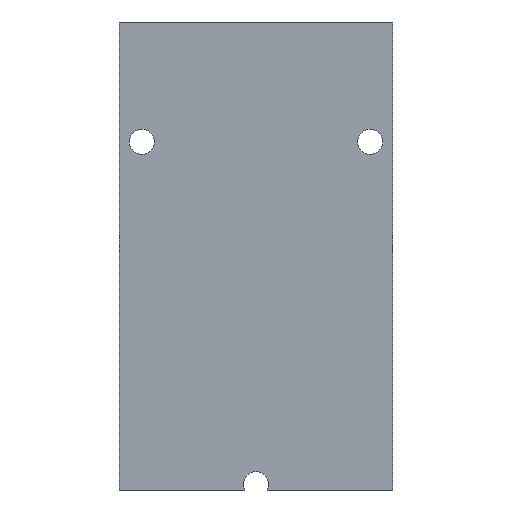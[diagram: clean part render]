
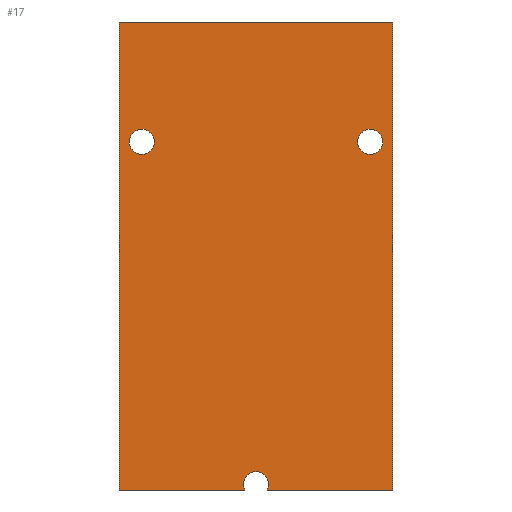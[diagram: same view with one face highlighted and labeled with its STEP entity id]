
A CAD part, left-side view. The second image highlights one B-rep face of the part: STEP entity #17.
In plain terms, the highlighted planar face has unit normal (-1, 0, 0).
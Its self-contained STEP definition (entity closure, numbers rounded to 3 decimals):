
#17 = ADVANCED_FACE('',(#18,#198,#233),#32,.F.);
#18 = FACE_BOUND('',#19,.F.);
#19 = EDGE_LOOP('',(#20,#55,#83,#111,#144,#172));
#20 = ORIENTED_EDGE('',*,*,#21,.F.);
#21 = EDGE_CURVE('',#22,#24,#26,.T.);
#22 = VERTEX_POINT('',#23);
#23 = CARTESIAN_POINT('',(43.175,18.,63.5));
#24 = VERTEX_POINT('',#25);
#25 = CARTESIAN_POINT('',(43.175,42.,63.5));
#26 = SURFACE_CURVE('',#27,(#31,#43),.PCURVE_S1.);
#27 = LINE('',#28,#29);
#28 = CARTESIAN_POINT('',(43.175,18.,63.5));
#29 = VECTOR('',#30,1.);
#30 = DIRECTION('',(0.,1.,0.));
#31 = PCURVE('',#32,#37);
#32 = PLANE('',#33);
#33 = AXIS2_PLACEMENT_3D('',#34,#35,#36);
#34 = CARTESIAN_POINT('',(43.175,18.,22.5));
#35 = DIRECTION('',(1.,0.,0.));
#36 = DIRECTION('',(0.,0.,1.));
#37 = DEFINITIONAL_REPRESENTATION('',(#38),#42);
#38 = LINE('',#39,#40);
#39 = CARTESIAN_POINT('',(41.,0.));
#40 = VECTOR('',#41,1.);
#41 = DIRECTION('',(0.,-1.));
#42 = ( GEOMETRIC_REPRESENTATION_CONTEXT(2) 
PARAMETRIC_REPRESENTATION_CONTEXT() REPRESENTATION_CONTEXT('2D SPACE',''
  ) );
#43 = PCURVE('',#44,#49);
#44 = PLANE('',#45);
#45 = AXIS2_PLACEMENT_3D('',#46,#47,#48);
#46 = CARTESIAN_POINT('',(43.175,18.,63.5));
#47 = DIRECTION('',(0.,0.,1.));
#48 = DIRECTION('',(1.,0.,0.));
#49 = DEFINITIONAL_REPRESENTATION('',(#50),#54);
#50 = LINE('',#51,#52);
#51 = CARTESIAN_POINT('',(0.,0.));
#52 = VECTOR('',#53,1.);
#53 = DIRECTION('',(0.,1.));
#54 = ( GEOMETRIC_REPRESENTATION_CONTEXT(2) 
PARAMETRIC_REPRESENTATION_CONTEXT() REPRESENTATION_CONTEXT('2D SPACE',''
  ) );
#55 = ORIENTED_EDGE('',*,*,#56,.F.);
#56 = EDGE_CURVE('',#57,#22,#59,.T.);
#57 = VERTEX_POINT('',#58);
#58 = CARTESIAN_POINT('',(43.175,18.,22.5));
#59 = SURFACE_CURVE('',#60,(#64,#71),.PCURVE_S1.);
#60 = LINE('',#61,#62);
#61 = CARTESIAN_POINT('',(43.175,18.,22.5));
#62 = VECTOR('',#63,1.);
#63 = DIRECTION('',(0.,0.,1.));
#64 = PCURVE('',#32,#65);
#65 = DEFINITIONAL_REPRESENTATION('',(#66),#70);
#66 = LINE('',#67,#68);
#67 = CARTESIAN_POINT('',(0.,0.));
#68 = VECTOR('',#69,1.);
#69 = DIRECTION('',(1.,0.));
#70 = ( GEOMETRIC_REPRESENTATION_CONTEXT(2) 
PARAMETRIC_REPRESENTATION_CONTEXT() REPRESENTATION_CONTEXT('2D SPACE',''
  ) );
#71 = PCURVE('',#72,#77);
#72 = PLANE('',#73);
#73 = AXIS2_PLACEMENT_3D('',#74,#75,#76);
#74 = CARTESIAN_POINT('',(43.175,18.,22.5));
#75 = DIRECTION('',(0.,1.,0.));
#76 = DIRECTION('',(0.,0.,1.));
#77 = DEFINITIONAL_REPRESENTATION('',(#78),#82);
#78 = LINE('',#79,#80);
#79 = CARTESIAN_POINT('',(0.,0.));
#80 = VECTOR('',#81,1.);
#81 = DIRECTION('',(1.,0.));
#82 = ( GEOMETRIC_REPRESENTATION_CONTEXT(2) 
PARAMETRIC_REPRESENTATION_CONTEXT() REPRESENTATION_CONTEXT('2D SPACE',''
  ) );
#83 = ORIENTED_EDGE('',*,*,#84,.T.);
#84 = EDGE_CURVE('',#57,#85,#87,.T.);
#85 = VERTEX_POINT('',#86);
#86 = CARTESIAN_POINT('',(43.175,29.02,22.5));
#87 = SURFACE_CURVE('',#88,(#92,#99),.PCURVE_S1.);
#88 = LINE('',#89,#90);
#89 = CARTESIAN_POINT('',(43.175,18.,22.5));
#90 = VECTOR('',#91,1.);
#91 = DIRECTION('',(0.,1.,0.));
#92 = PCURVE('',#32,#93);
#93 = DEFINITIONAL_REPRESENTATION('',(#94),#98);
#94 = LINE('',#95,#96);
#95 = CARTESIAN_POINT('',(0.,0.));
#96 = VECTOR('',#97,1.);
#97 = DIRECTION('',(0.,-1.));
#98 = ( GEOMETRIC_REPRESENTATION_CONTEXT(2) 
PARAMETRIC_REPRESENTATION_CONTEXT() REPRESENTATION_CONTEXT('2D SPACE',''
  ) );
#99 = PCURVE('',#100,#105);
#100 = PLANE('',#101);
#101 = AXIS2_PLACEMENT_3D('',#102,#103,#104);
#102 = CARTESIAN_POINT('',(43.175,18.,22.5));
#103 = DIRECTION('',(0.,0.,1.));
#104 = DIRECTION('',(1.,0.,0.));
#105 = DEFINITIONAL_REPRESENTATION('',(#106),#110);
#106 = LINE('',#107,#108);
#107 = CARTESIAN_POINT('',(0.,0.));
#108 = VECTOR('',#109,1.);
#109 = DIRECTION('',(0.,1.));
#110 = ( GEOMETRIC_REPRESENTATION_CONTEXT(2) 
PARAMETRIC_REPRESENTATION_CONTEXT() REPRESENTATION_CONTEXT('2D SPACE',''
  ) );
#111 = ORIENTED_EDGE('',*,*,#112,.T.);
#112 = EDGE_CURVE('',#85,#113,#115,.T.);
#113 = VERTEX_POINT('',#114);
#114 = CARTESIAN_POINT('',(43.175,30.98,22.5));
#115 = SURFACE_CURVE('',#116,(#121,#132),.PCURVE_S1.);
#116 = CIRCLE('',#117,1.1);
#117 = AXIS2_PLACEMENT_3D('',#118,#119,#120);
#118 = CARTESIAN_POINT('',(43.175,30.,23.));
#119 = DIRECTION('',(-1.,-0.,0.));
#120 = DIRECTION('',(0.,0.,-1.));
#121 = PCURVE('',#32,#122);
#122 = DEFINITIONAL_REPRESENTATION('',(#123),#131);
#123 = ( BOUNDED_CURVE() B_SPLINE_CURVE(2,(#124,#125,#126,#127,#128,#129
,#130),.UNSPECIFIED.,.T.,.F.) B_SPLINE_CURVE_WITH_KNOTS((1,2,2,2,2,1),(
    -2.094,0.,2.094,4.189,6.283,
8.378),.UNSPECIFIED.) CURVE() GEOMETRIC_REPRESENTATION_ITEM() 
RATIONAL_B_SPLINE_CURVE((1.,0.5,1.,0.5,1.,0.5,1.)) REPRESENTATION_ITEM(
  '') );
#124 = CARTESIAN_POINT('',(-0.6,-12.));
#125 = CARTESIAN_POINT('',(-0.6,-10.095));
#126 = CARTESIAN_POINT('',(1.05,-11.047));
#127 = CARTESIAN_POINT('',(2.7,-12.));
#128 = CARTESIAN_POINT('',(1.05,-12.953));
#129 = CARTESIAN_POINT('',(-0.6,-13.905));
#130 = CARTESIAN_POINT('',(-0.6,-12.));
#131 = ( GEOMETRIC_REPRESENTATION_CONTEXT(2) 
PARAMETRIC_REPRESENTATION_CONTEXT() REPRESENTATION_CONTEXT('2D SPACE',''
  ) );
#132 = PCURVE('',#133,#138);
#133 = CYLINDRICAL_SURFACE('',#134,1.1);
#134 = AXIS2_PLACEMENT_3D('',#135,#136,#137);
#135 = CARTESIAN_POINT('',(42.5,30.,23.));
#136 = DIRECTION('',(-1.,-0.,0.));
#137 = DIRECTION('',(0.,0.,-1.));
#138 = DEFINITIONAL_REPRESENTATION('',(#139),#143);
#139 = LINE('',#140,#141);
#140 = CARTESIAN_POINT('',(-6.283,-0.675));
#141 = VECTOR('',#142,1.);
#142 = DIRECTION('',(1.,-0.));
#143 = ( GEOMETRIC_REPRESENTATION_CONTEXT(2) 
PARAMETRIC_REPRESENTATION_CONTEXT() REPRESENTATION_CONTEXT('2D SPACE',''
  ) );
#144 = ORIENTED_EDGE('',*,*,#145,.T.);
#145 = EDGE_CURVE('',#113,#146,#148,.T.);
#146 = VERTEX_POINT('',#147);
#147 = CARTESIAN_POINT('',(43.175,42.,22.5));
#148 = SURFACE_CURVE('',#149,(#153,#160),.PCURVE_S1.);
#149 = LINE('',#150,#151);
#150 = CARTESIAN_POINT('',(43.175,18.,22.5));
#151 = VECTOR('',#152,1.);
#152 = DIRECTION('',(0.,1.,0.));
#153 = PCURVE('',#32,#154);
#154 = DEFINITIONAL_REPRESENTATION('',(#155),#159);
#155 = LINE('',#156,#157);
#156 = CARTESIAN_POINT('',(0.,0.));
#157 = VECTOR('',#158,1.);
#158 = DIRECTION('',(0.,-1.));
#159 = ( GEOMETRIC_REPRESENTATION_CONTEXT(2) 
PARAMETRIC_REPRESENTATION_CONTEXT() REPRESENTATION_CONTEXT('2D SPACE',''
  ) );
#160 = PCURVE('',#161,#166);
#161 = PLANE('',#162);
#162 = AXIS2_PLACEMENT_3D('',#163,#164,#165);
#163 = CARTESIAN_POINT('',(43.175,18.,22.5));
#164 = DIRECTION('',(0.,0.,1.));
#165 = DIRECTION('',(1.,0.,0.));
#166 = DEFINITIONAL_REPRESENTATION('',(#167),#171);
#167 = LINE('',#168,#169);
#168 = CARTESIAN_POINT('',(0.,0.));
#169 = VECTOR('',#170,1.);
#170 = DIRECTION('',(0.,1.));
#171 = ( GEOMETRIC_REPRESENTATION_CONTEXT(2) 
PARAMETRIC_REPRESENTATION_CONTEXT() REPRESENTATION_CONTEXT('2D SPACE',''
  ) );
#172 = ORIENTED_EDGE('',*,*,#173,.T.);
#173 = EDGE_CURVE('',#146,#24,#174,.T.);
#174 = SURFACE_CURVE('',#175,(#179,#186),.PCURVE_S1.);
#175 = LINE('',#176,#177);
#176 = CARTESIAN_POINT('',(43.175,42.,22.5));
#177 = VECTOR('',#178,1.);
#178 = DIRECTION('',(0.,0.,1.));
#179 = PCURVE('',#32,#180);
#180 = DEFINITIONAL_REPRESENTATION('',(#181),#185);
#181 = LINE('',#182,#183);
#182 = CARTESIAN_POINT('',(0.,-24.));
#183 = VECTOR('',#184,1.);
#184 = DIRECTION('',(1.,0.));
#185 = ( GEOMETRIC_REPRESENTATION_CONTEXT(2) 
PARAMETRIC_REPRESENTATION_CONTEXT() REPRESENTATION_CONTEXT('2D SPACE',''
  ) );
#186 = PCURVE('',#187,#192);
#187 = PLANE('',#188);
#188 = AXIS2_PLACEMENT_3D('',#189,#190,#191);
#189 = CARTESIAN_POINT('',(43.175,42.,22.5));
#190 = DIRECTION('',(0.,1.,0.));
#191 = DIRECTION('',(0.,0.,1.));
#192 = DEFINITIONAL_REPRESENTATION('',(#193),#197);
#193 = LINE('',#194,#195);
#194 = CARTESIAN_POINT('',(0.,0.));
#195 = VECTOR('',#196,1.);
#196 = DIRECTION('',(1.,0.));
#197 = ( GEOMETRIC_REPRESENTATION_CONTEXT(2) 
PARAMETRIC_REPRESENTATION_CONTEXT() REPRESENTATION_CONTEXT('2D SPACE',''
  ) );
#198 = FACE_BOUND('',#199,.F.);
#199 = EDGE_LOOP('',(#200));
#200 = ORIENTED_EDGE('',*,*,#201,.T.);
#201 = EDGE_CURVE('',#202,#202,#204,.T.);
#202 = VERTEX_POINT('',#203);
#203 = CARTESIAN_POINT('',(43.175,40.,51.9));
#204 = SURFACE_CURVE('',#205,(#210,#221),.PCURVE_S1.);
#205 = CIRCLE('',#206,1.1);
#206 = AXIS2_PLACEMENT_3D('',#207,#208,#209);
#207 = CARTESIAN_POINT('',(43.175,40.,53.));
#208 = DIRECTION('',(-1.,-0.,0.));
#209 = DIRECTION('',(0.,0.,-1.));
#210 = PCURVE('',#32,#211);
#211 = DEFINITIONAL_REPRESENTATION('',(#212),#220);
#212 = ( BOUNDED_CURVE() B_SPLINE_CURVE(2,(#213,#214,#215,#216,#217,#218
,#219),.UNSPECIFIED.,.T.,.F.) B_SPLINE_CURVE_WITH_KNOTS((1,2,2,2,2,1),(
    -2.094,0.,2.094,4.189,6.283,
8.378),.UNSPECIFIED.) CURVE() GEOMETRIC_REPRESENTATION_ITEM() 
RATIONAL_B_SPLINE_CURVE((1.,0.5,1.,0.5,1.,0.5,1.)) REPRESENTATION_ITEM(
  '') );
#213 = CARTESIAN_POINT('',(29.4,-22.));
#214 = CARTESIAN_POINT('',(29.4,-20.095));
#215 = CARTESIAN_POINT('',(31.05,-21.047));
#216 = CARTESIAN_POINT('',(32.7,-22.));
#217 = CARTESIAN_POINT('',(31.05,-22.953));
#218 = CARTESIAN_POINT('',(29.4,-23.905));
#219 = CARTESIAN_POINT('',(29.4,-22.));
#220 = ( GEOMETRIC_REPRESENTATION_CONTEXT(2) 
PARAMETRIC_REPRESENTATION_CONTEXT() REPRESENTATION_CONTEXT('2D SPACE',''
  ) );
#221 = PCURVE('',#222,#227);
#222 = CYLINDRICAL_SURFACE('',#223,1.1);
#223 = AXIS2_PLACEMENT_3D('',#224,#225,#226);
#224 = CARTESIAN_POINT('',(42.5,40.,53.));
#225 = DIRECTION('',(-1.,-0.,0.));
#226 = DIRECTION('',(0.,0.,-1.));
#227 = DEFINITIONAL_REPRESENTATION('',(#228),#232);
#228 = LINE('',#229,#230);
#229 = CARTESIAN_POINT('',(-6.283,-0.675));
#230 = VECTOR('',#231,1.);
#231 = DIRECTION('',(1.,-0.));
#232 = ( GEOMETRIC_REPRESENTATION_CONTEXT(2) 
PARAMETRIC_REPRESENTATION_CONTEXT() REPRESENTATION_CONTEXT('2D SPACE',''
  ) );
#233 = FACE_BOUND('',#234,.F.);
#234 = EDGE_LOOP('',(#235));
#235 = ORIENTED_EDGE('',*,*,#236,.T.);
#236 = EDGE_CURVE('',#237,#237,#239,.T.);
#237 = VERTEX_POINT('',#238);
#238 = CARTESIAN_POINT('',(43.175,20.,51.9));
#239 = SURFACE_CURVE('',#240,(#245,#256),.PCURVE_S1.);
#240 = CIRCLE('',#241,1.1);
#241 = AXIS2_PLACEMENT_3D('',#242,#243,#244);
#242 = CARTESIAN_POINT('',(43.175,20.,53.));
#243 = DIRECTION('',(-1.,-0.,0.));
#244 = DIRECTION('',(0.,0.,-1.));
#245 = PCURVE('',#32,#246);
#246 = DEFINITIONAL_REPRESENTATION('',(#247),#255);
#247 = ( BOUNDED_CURVE() B_SPLINE_CURVE(2,(#248,#249,#250,#251,#252,#253
,#254),.UNSPECIFIED.,.T.,.F.) B_SPLINE_CURVE_WITH_KNOTS((1,2,2,2,2,1),(
    -2.094,0.,2.094,4.189,6.283,
8.378),.UNSPECIFIED.) CURVE() GEOMETRIC_REPRESENTATION_ITEM() 
RATIONAL_B_SPLINE_CURVE((1.,0.5,1.,0.5,1.,0.5,1.)) REPRESENTATION_ITEM(
  '') );
#248 = CARTESIAN_POINT('',(29.4,-2.));
#249 = CARTESIAN_POINT('',(29.4,-0.095));
#250 = CARTESIAN_POINT('',(31.05,-1.047));
#251 = CARTESIAN_POINT('',(32.7,-2.));
#252 = CARTESIAN_POINT('',(31.05,-2.953));
#253 = CARTESIAN_POINT('',(29.4,-3.905));
#254 = CARTESIAN_POINT('',(29.4,-2.));
#255 = ( GEOMETRIC_REPRESENTATION_CONTEXT(2) 
PARAMETRIC_REPRESENTATION_CONTEXT() REPRESENTATION_CONTEXT('2D SPACE',''
  ) );
#256 = PCURVE('',#257,#262);
#257 = CYLINDRICAL_SURFACE('',#258,1.1);
#258 = AXIS2_PLACEMENT_3D('',#259,#260,#261);
#259 = CARTESIAN_POINT('',(42.5,20.,53.));
#260 = DIRECTION('',(-1.,-0.,0.));
#261 = DIRECTION('',(0.,0.,-1.));
#262 = DEFINITIONAL_REPRESENTATION('',(#263),#267);
#263 = LINE('',#264,#265);
#264 = CARTESIAN_POINT('',(-6.283,-0.675));
#265 = VECTOR('',#266,1.);
#266 = DIRECTION('',(1.,-0.));
#267 = ( GEOMETRIC_REPRESENTATION_CONTEXT(2) 
PARAMETRIC_REPRESENTATION_CONTEXT() REPRESENTATION_CONTEXT('2D SPACE',''
  ) );
